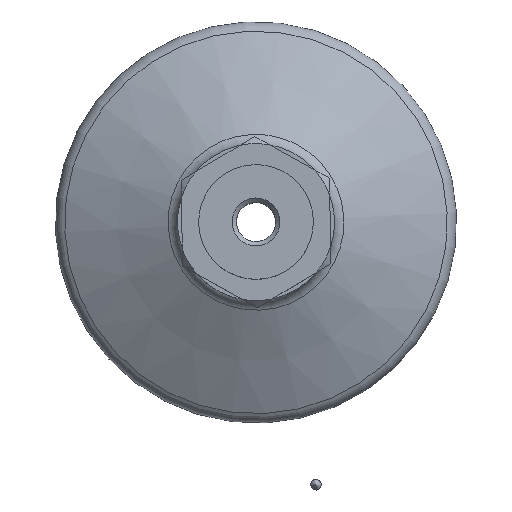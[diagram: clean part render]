
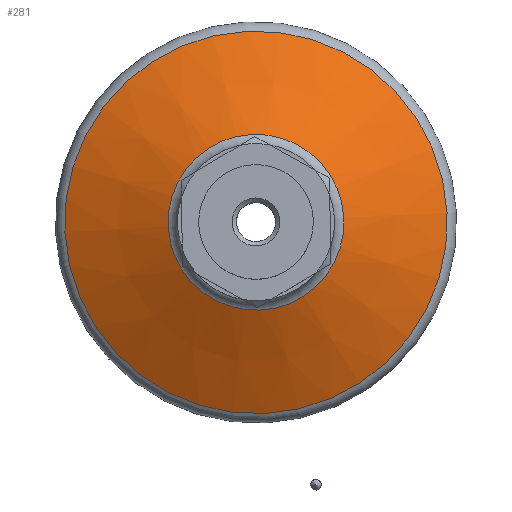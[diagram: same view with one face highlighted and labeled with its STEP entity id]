
A CAD part, top view. The second image highlights one B-rep face of the part: STEP entity #281.
In plain terms, the highlighted conical face has half-angle 62.499 degrees and reference radius 16 mm.
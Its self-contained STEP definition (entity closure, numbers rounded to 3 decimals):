
#281=ADVANCED_FACE('',(#544,#545),#546,.T.);
#544=FACE_BOUND('',#792,.T.);
#545=FACE_OUTER_BOUND('',#793,.T.);
#546=CONICAL_SURFACE('',#794,16.,1.091);
#792=EDGE_LOOP('',(#1206));
#793=EDGE_LOOP('',(#1207));
#794=AXIS2_PLACEMENT_3D('',#1208,#1209,#1210);
#1206=ORIENTED_EDGE('',*,*,#1386,.T.);
#1207=ORIENTED_EDGE('',*,*,#1377,.F.);
#1208=CARTESIAN_POINT('',(0.0,0.,15.357));
#1209=DIRECTION('',(0.0,-0.0,-1.0));
#1210=DIRECTION('',(1.0,0.0,0.0));
#1377=EDGE_CURVE('',#1588,#1588,#1589,.T.);
#1386=EDGE_CURVE('',#1603,#1603,#1604,.T.);
#1588=VERTEX_POINT('',#2041);
#1589=CIRCLE('',#2042,21.924);
#1603=VERTEX_POINT('',#2056);
#1604=CIRCLE('',#2057,10.076);
#2041=CARTESIAN_POINT('',(-21.924,0.,12.273));
#2042=AXIS2_PLACEMENT_3D('',#2247,#2248,#2249);
#2056=CARTESIAN_POINT('',(-10.076,0.,18.441));
#2057=AXIS2_PLACEMENT_3D('',#2265,#2266,#2267);
#2247=CARTESIAN_POINT('',(0.0,0.,12.273));
#2248=DIRECTION('',(0.0,0.0,-1.0));
#2249=DIRECTION('',(-1.0,0.0,0.0));
#2265=CARTESIAN_POINT('',(0.0,0.,18.441));
#2266=DIRECTION('',(0.0,0.0,-1.0));
#2267=DIRECTION('',(-1.0,0.0,0.0));
